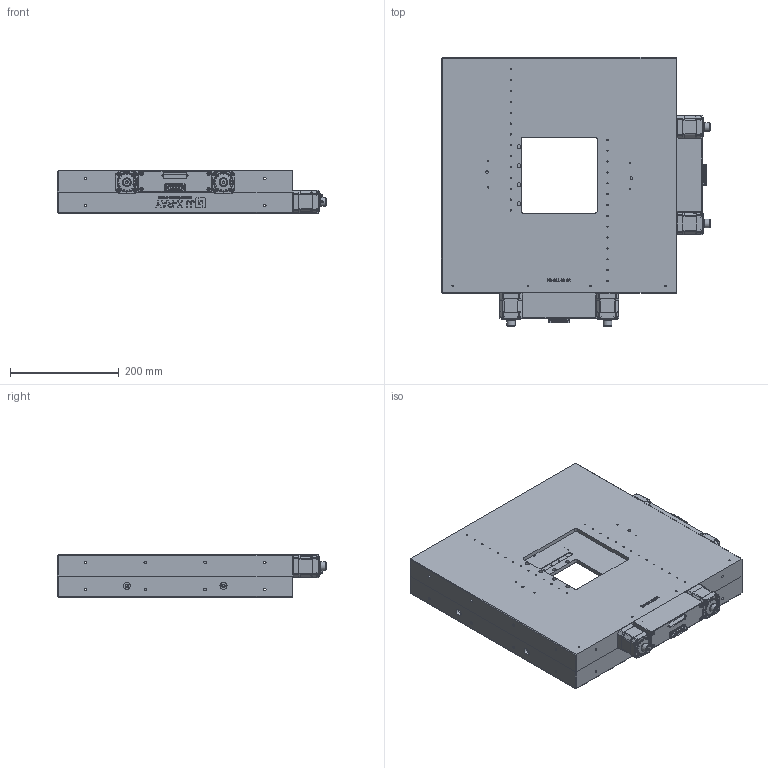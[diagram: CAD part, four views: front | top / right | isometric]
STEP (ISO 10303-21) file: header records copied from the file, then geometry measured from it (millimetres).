
FILE_DESCRIPTION((''),'2;1');
FILE_NAME('C:\WF\Designs\Slitter\0901 IBC140\JJ X-Ray hjemmeside\IB-C140-Air Slit.stp','2012-10-01T13:18:30',('Henning'),(''),'Autodesk Inventor 2013','Autodesk Inventor 2013','');
FILE_SCHEMA(('AUTOMOTIVE_DESIGN { 1 0 10303 214 1 1 1 1 }'));
Length unit declared in the file: millimetre
Products named in the file (18): IB-C140-Air Slit for step; 090100a0 for step; 090101a1; Vexta stepmotor 42mm [Title [Summary]=PK245-0][midterextr=25 mm]; 090109a3; 061020a4; Skalaknap-A; skalaknap del3; skalaknap; skalaknap del2; skalaknap del1; Dsub 15 Pin, 2 Row, Male; D-Connector screw; M3x30-Z; 090100b0 for step; 090101b1; DIN EN ISO 4762 M6 x 50
Assembly tree (56 placements, depth 4):
  IB-C140-Air Slit for step
    090100a0 for step
      090101a1
      Vexta stepmotor 42mm [Title [Summary]=PK245-0][midterextr=25 mm]  x2
      090109a3
      061020a4  x2
      Skalaknap-A  x2
        skalaknap del3
        skalaknap
        skalaknap del2
        skalaknap del1
      Dsub 15 Pin, 2 Row, Male
      D-Connector screw  x2
      M3x30-Z  x12
    090100b0 for step
      090101b1
      Vexta stepmotor 42mm [Title [Summary]=PK245-0][midterextr=25 mm]  x2
      090109a3
      061020a4  x2
      Skalaknap-A  x2
        skalaknap del3
        skalaknap
        skalaknap del2
        skalaknap del1
      Dsub 15 Pin, 2 Row, Male
      D-Connector screw  x2
      M3x30-Z  x12
    DIN EN ISO 4762 M6 x 50  x4
Bounding box: 496 x 496 x 78 mm (x, y, z)
Volume: 3961844.5 mm3; surface area: 1102779.8 mm2
Topology: 62 solids, 62 shells, 7504 faces, 20250 edges, 13354 vertices
Faces by surface type: plane 3998, bspline 1834, cylinder 1142, cone 352, torus 124, sphere 54
Full cylindrical faces by diameter (mm): 0.991 x30, 1.567 x16, 2.156 x8, 2.459 x92, 2.487 x4, 2.75 x24, 2.82 x4, 3 x24, 3.048 x4, 3.242 x8, 3.5 x8, 4 x4, 4.5 x16, 4.917 x28, 5 x32, 6 x4, 6.5 x20, 7 x8, 10 x4, 10.5 x4, 13 x4, 15 x4, 16 x4, 20 x4, 22 x4, 30 x4, 36 x4
Entity records: 105706 total; most frequent: CARTESIAN_POINT 32900, ORIENTED_EDGE 16110, DIRECTION 11895, EDGE_CURVE 8055, VERTEX_POINT 5459, VECTOR 4627, LINE 4627, EDGE_LOOP 4032
